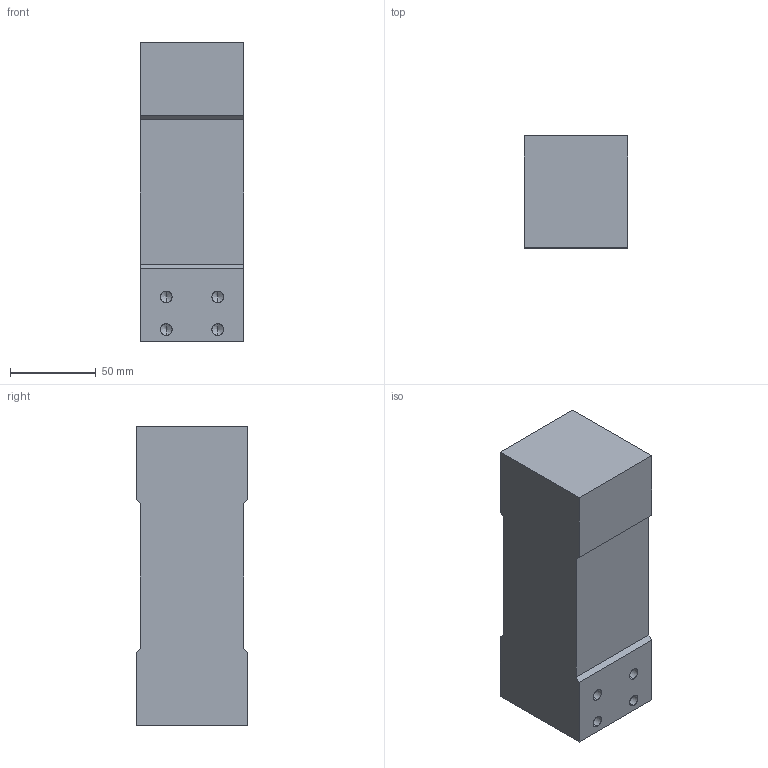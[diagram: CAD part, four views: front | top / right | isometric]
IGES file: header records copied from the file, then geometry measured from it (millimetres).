
Start section: SolidWorks IGES file using analytic representation for surfaces
Global section: file name: C:\Documents and Settings\Soundar\My Documents\Specsheets\Resistive\RAP3\rap3.IGS; native system: SolidWorks 2009; preprocessor: SolidWorks 2009; author: Soundar; date: 120507.145740; units: inch
Bounding box: 60 x 65 x 174 mm (x, y, z)
Surface area: 55004.5 mm2 (no closed solid volume)
Topology: 0 solids, 0 shells, 46 faces, 456 edges, 440 vertices
Faces by surface type: revolution 32, bspline 14
